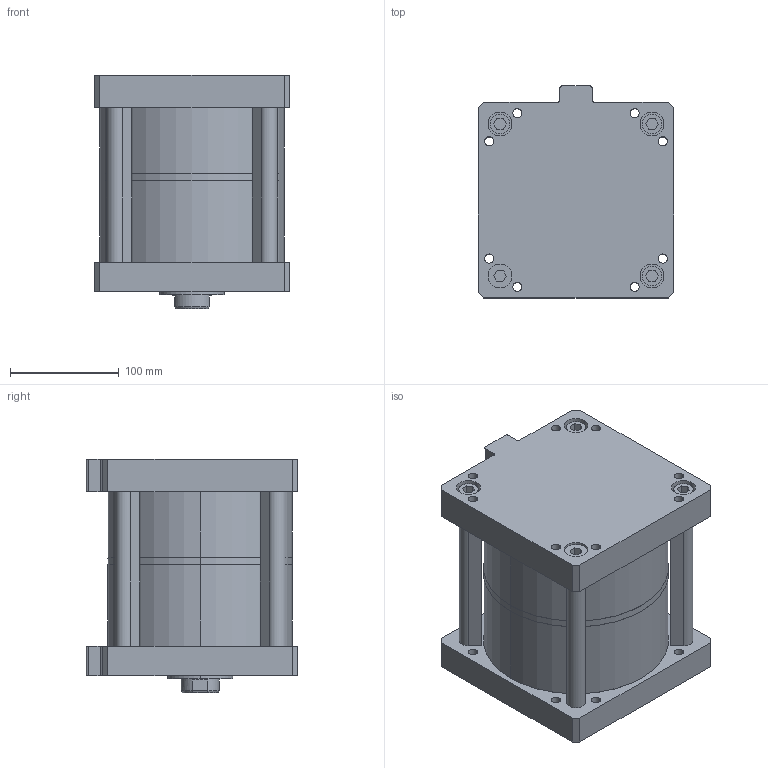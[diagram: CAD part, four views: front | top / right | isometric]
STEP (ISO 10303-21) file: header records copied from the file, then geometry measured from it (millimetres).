
FILE_DESCRIPTION (( 'STEP AP203' ), '1' );
FILE_NAME ('MHK-160-50-F-2.STEP', '2016-03-30T09:35:24', ( 'WIN' ), ( '' ), 'SwSTEP 2.0', 'SolidWorks 2014', '' );
FILE_SCHEMA (( 'CONFIG_CONTROL_DESIGN' ));
Length unit declared in the file: millimetre
Products named in the file (1): MHK-160-50-F-2
Bounding box: 180 x 195 x 215.5 mm (x, y, z)
Volume: 2352080.6 mm3; surface area: 508622 mm2
Topology: 4 solids, 4 shells, 300 faces, 726 edges, 466 vertices
Faces by surface type: plane 172, cylinder 118, cone 10
Entity records: 8929 total; most frequent: DIRECTION 1612, CARTESIAN_POINT 1501, ORIENTED_EDGE 1444, EDGE_CURVE 722, AXIS2_PLACEMENT_3D 593, VERTEX_POINT 466, LINE 426, VECTOR 426
